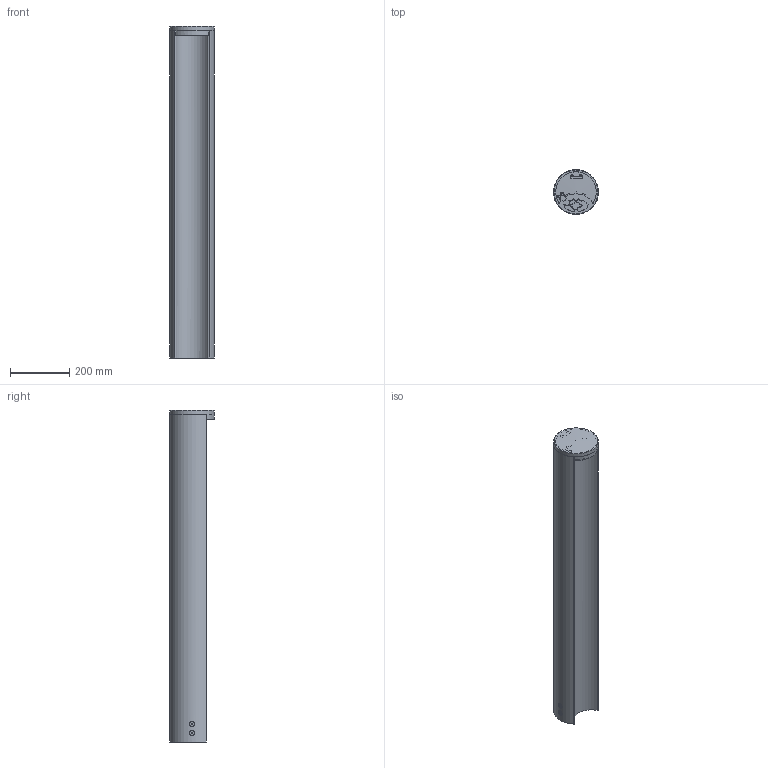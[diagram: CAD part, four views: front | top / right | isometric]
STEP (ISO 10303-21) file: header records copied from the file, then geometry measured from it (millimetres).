
FILE_DESCRIPTION(/* description */ ('Unknown'),/* implementation_level */ '2;1');
FILE_NAME(/* name */ 'RYO MONO BIG',/* time_stamp */ '2023-01-17T10:31:01+01:00',/* author */ ('Unknown'),/* organization */ ('Unknown'),/* preprocessor_version */ 'ST-DEVELOPER v18.1',/* originating_system */ 'Solid Edge',/* authorisation */ 'Unknown');
FILE_SCHEMA (('AUTOMOTIVE_DESIGN {1 0 10303 214 3 1 1}'));
Length unit declared in the file: millimetre
Products named in the file (1): E64736_Semplifica
Bounding box: 150.46 x 150.46 x 1116.5 mm (x, y, z)
Volume: 1818532.1 mm3; surface area: 1155693.7 mm2
Topology: 2 solids, 2 shells, 920 faces, 2140 edges, 1184 vertices
Faces by surface type: cylinder 322, torus 180, plane 177, sphere 87, bspline 85, cone 69
Full cylindrical faces by diameter (mm): 2.459 x4, 2.5 x4, 3 x4, 3.242 x2, 3.5 x4, 4.917 x2, 7 x3, 8 x4, 11.1 x4, 16 x4, 30 x1
Entity records: 31902 total; most frequent: CARTESIAN_POINT 5747, DIRECTION 4575, ORIENTED_EDGE 3928, EDGE_CURVE 1964, AXIS2_PLACEMENT_3D 1949, VERTEX_POINT 1149, CIRCLE 1072, EDGE_LOOP 1051
